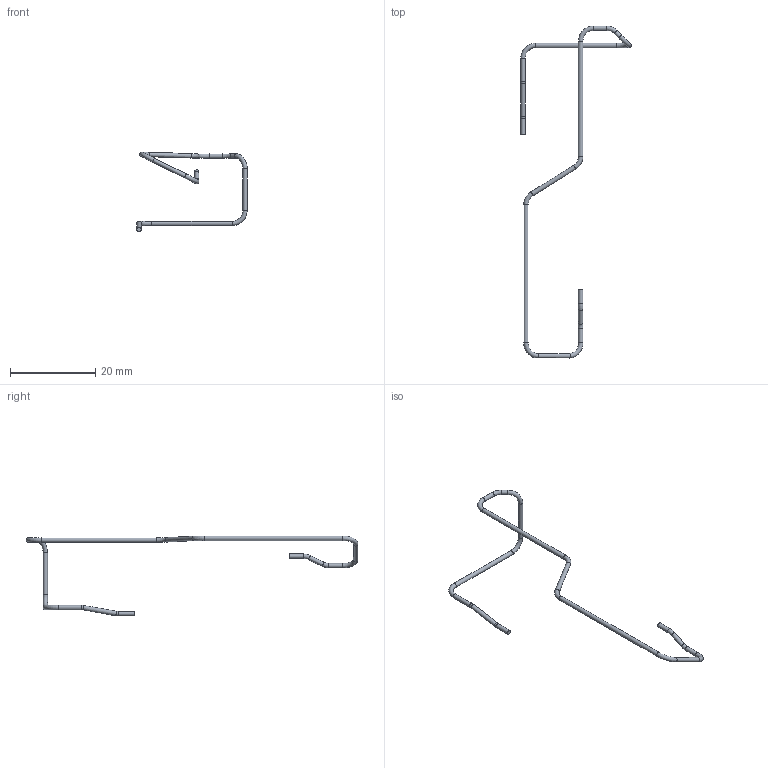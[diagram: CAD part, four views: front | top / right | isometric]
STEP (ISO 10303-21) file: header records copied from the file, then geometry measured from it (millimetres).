
FILE_DESCRIPTION(('Open CASCADE Model'),'2;1');
FILE_NAME('R36_J2_CK_PIGTAIL_1_OD1p05_R3','2026-09-15T14:09:11',( 'Author'),('Open CASCADE'),'Open CASCADE STEP processor 7.9', 'build123d','Unknown');
FILE_SCHEMA(('AUTOMOTIVE_DESIGN { 1 0 10303 214 1 1 1 1 }'));
Length unit declared in the file: millimetre
Products named in the file (1): R36_J2_CK_PIGTAIL_1_OD1p05_R3
Bounding box: 25.85 x 77.7 x 18.71 mm (x, y, z)
Volume: 156 mm3; surface area: 596 mm2
Topology: 1 solids, 1 shells, 29 faces, 55 edges, 28 vertices
Faces by surface type: cylinder 14, torus 13, plane 2
Full cylindrical faces by diameter (mm): 1.05 x14
Entity records: 1394 total; most frequent: CARTESIAN_POINT 276, DIRECTION 213, ORIENTED_EDGE 110, PCURVE 110, DEFINITIONAL_REPRESENTATION 110, AXIS2_PLACEMENT_3D 71, LINE 69, VECTOR 69
